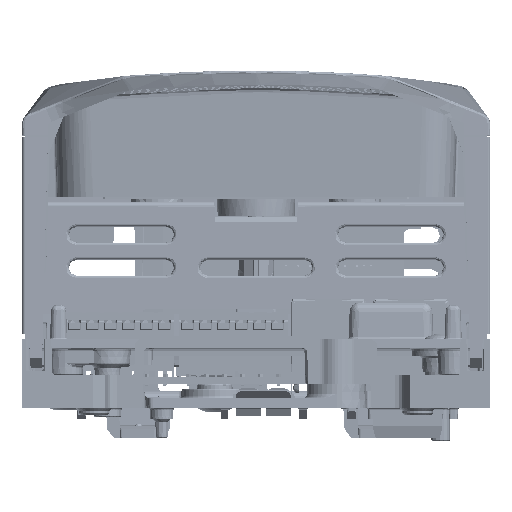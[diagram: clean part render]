
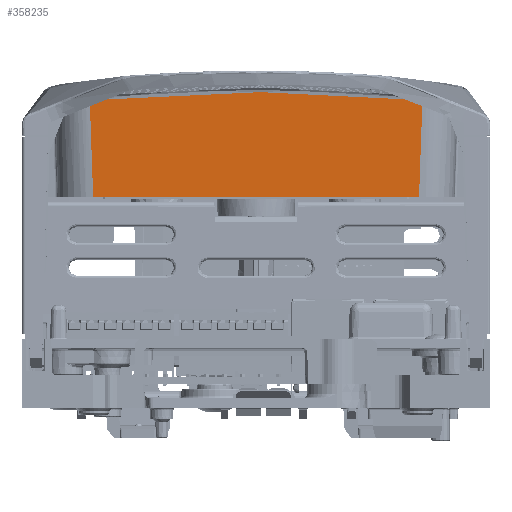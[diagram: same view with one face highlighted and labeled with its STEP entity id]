
A CAD part, front view. The second image highlights one B-rep face of the part: STEP entity #358235.
In plain terms, the highlighted planar face has unit normal (0, -0.999, -0.035) as drawn and (0, 0.999, -0.035) by its records, which use the part's own axes.
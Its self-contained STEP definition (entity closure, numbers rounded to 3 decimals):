
#23807=PLANE('',#378351);
#37903=FACE_OUTER_BOUND('',#56664,.T.);
#56664=EDGE_LOOP('',(#260763,#260764,#260765,#260766,#260767));
#75246=B_SPLINE_CURVE_WITH_KNOTS('',3,(#575781,#575782,#575783,#575784,
#575785,#575786,#575787,#575788,#575789,#575790),.UNSPECIFIED.,.F.,.F.,
(4,3,3,4),(0.,0.5,0.5,1.),.UNSPECIFIED.);
#75247=B_SPLINE_CURVE_WITH_KNOTS('',3,(#575797,#575798,#575799,#575800),
 .UNSPECIFIED.,.F.,.F.,(4,4),(0.,1.),.UNSPECIFIED.);
#79854=LINE('',#575792,#119788);
#79855=LINE('',#575794,#119789);
#79856=LINE('',#575796,#119790);
#119788=VECTOR('',#411146,20.495);
#119789=VECTOR('',#411147,68.967);
#119790=VECTOR('',#411148,20.495);
#167459=VERTEX_POINT('',#575779);
#167460=VERTEX_POINT('',#575780);
#167461=VERTEX_POINT('',#575791);
#167462=VERTEX_POINT('',#575793);
#167463=VERTEX_POINT('',#575795);
#203272=EDGE_CURVE('',#167459,#167460,#75246,.T.);
#203273=EDGE_CURVE('',#167460,#167461,#79854,.T.);
#203274=EDGE_CURVE('',#167462,#167461,#79855,.T.);
#203275=EDGE_CURVE('',#167462,#167463,#79856,.T.);
#203276=EDGE_CURVE('',#167463,#167459,#75247,.T.);
#260763=ORIENTED_EDGE('',*,*,#203272,.T.);
#260764=ORIENTED_EDGE('',*,*,#203273,.T.);
#260765=ORIENTED_EDGE('',*,*,#203274,.F.);
#260766=ORIENTED_EDGE('',*,*,#203275,.T.);
#260767=ORIENTED_EDGE('',*,*,#203276,.T.);
#358235=ADVANCED_FACE('',(#37903),#23807,.T.);
#378351=AXIS2_PLACEMENT_3D('',#575778,#411144,#411145);
#411144=DIRECTION('center_axis',(0.,0.999,
-0.035));
#411145=DIRECTION('ref_axis',(0.,0.035,0.999));
#411146=DIRECTION('',(-0.035,-0.035,-0.999));
#411147=DIRECTION('',(1.,0.,0.));
#411148=DIRECTION('',(-0.035,0.035,0.999));
#575778=CARTESIAN_POINT('Origin',(-109.555,-146.599,45.761));
#575779=CARTESIAN_POINT('',(2.445,-145.712,71.155));
#575780=CARTESIAN_POINT('',(38.643,-145.772,69.434));
#575781=CARTESIAN_POINT('Ctrl Pts',(2.445,-145.712,
71.155));
#575782=CARTESIAN_POINT('Ctrl Pts',(8.485,-145.712,
71.155));
#575783=CARTESIAN_POINT('Ctrl Pts',(14.525,-145.717,71.003));
#575784=CARTESIAN_POINT('Ctrl Pts',(20.553,-145.729,
70.683));
#575785=CARTESIAN_POINT('Ctrl Pts',(20.557,-145.729,
70.683));
#575786=CARTESIAN_POINT('Ctrl Pts',(20.561,-145.729,
70.683));
#575787=CARTESIAN_POINT('Ctrl Pts',(20.564,-145.729,
70.682));
#575788=CARTESIAN_POINT('Ctrl Pts',(26.596,-145.74,70.362));
#575789=CARTESIAN_POINT('Ctrl Pts',(32.621,-145.755,
69.919));
#575790=CARTESIAN_POINT('Ctrl Pts',(38.643,-145.772,
69.434));
#575791=CARTESIAN_POINT('',(37.929,-146.487,48.964));
#575792=CARTESIAN_POINT('',(37.817,-146.599,45.765));
#575793=CARTESIAN_POINT('',(-31.038,-146.487,48.964));
#575794=CARTESIAN_POINT('',(-42.58,-146.487,48.964));
#575795=CARTESIAN_POINT('',(-31.753,-145.772,69.434));
#575796=CARTESIAN_POINT('',(-30.927,-146.599,45.765));
#575797=CARTESIAN_POINT('Ctrl Pts',(-31.753,-145.772,
69.434));
#575798=CARTESIAN_POINT('Ctrl Pts',(-20.364,-145.74,
70.351));
#575799=CARTESIAN_POINT('Ctrl Pts',(-8.97,-145.713,
71.119));
#575800=CARTESIAN_POINT('Ctrl Pts',(2.445,-145.712,
71.153));
